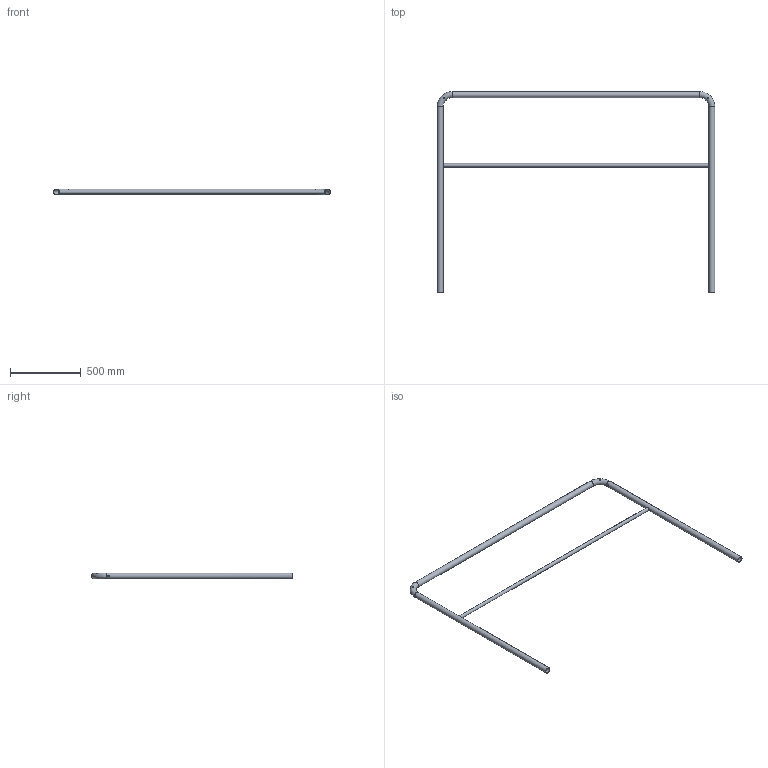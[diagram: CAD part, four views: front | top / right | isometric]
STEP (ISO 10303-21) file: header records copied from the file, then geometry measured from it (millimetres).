
FILE_DESCRIPTION((''),'2;1');
FILE_NAME('S:\Användarkataloger\AndreasA\Mina Inventor filer\Räcken\STEP\modul_ind_2000-1400.stp','2010-09-07T13:05:38',('AndreasA'),(''),'Autodesk Inventor 2011','Autodesk Inventor 2011','');
FILE_SCHEMA(('AUTOMOTIVE_DESIGN { 1 0 10303 214 1 1 1 1 }'));
Length unit declared in the file: millimetre
Products named in the file (3): modul_ind_2000-1400; handledare_modul_2000-1400; mellanliggare_modul_2000
Assembly tree (2 placements, depth 2):
  modul_ind_2000-1400
    handledare_modul_2000-1400
    mellanliggare_modul_2000
Bounding box: 1965.4 x 1421.2 x 42.4 mm (x, y, z)
Volume: 1450412.8 mm3; surface area: 1451746.1 mm2
Topology: 2 solids, 2 shells, 24 faces, 64 edges, 40 vertices
Faces by surface type: cylinder 16, torus 4, plane 4
Full cylindrical faces by diameter (mm): 10 x4, 11 x4, 21 x1, 25 x1, 38.4 x3, 42.4 x3
Entity records: 1354 total; most frequent: CARTESIAN_POINT 809, DIRECTION 90, ORIENTED_EDGE 64, EDGE_LOOP 64, AXIS2_PLACEMENT_3D 45, FACE_BOUND 40, VERTEX_POINT 32, EDGE_CURVE 32
